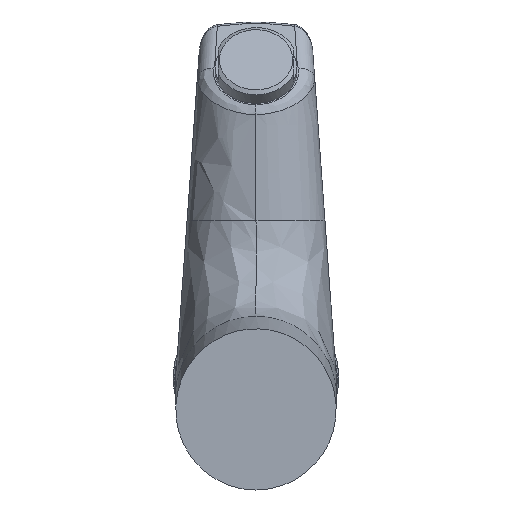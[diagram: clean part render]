
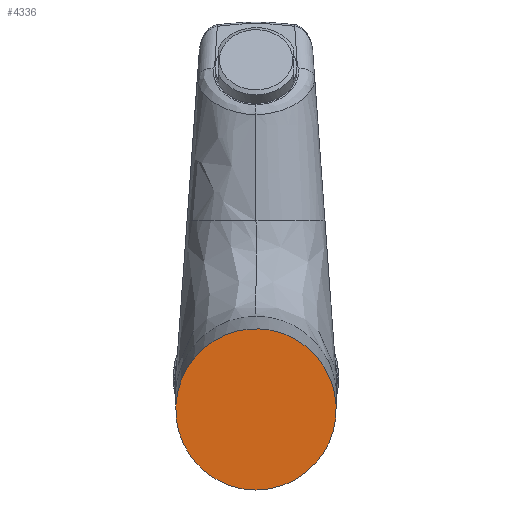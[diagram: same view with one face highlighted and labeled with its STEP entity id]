
A CAD part, front view. The second image highlights one B-rep face of the part: STEP entity #4336.
In plain terms, the highlighted planar face has unit normal (0, -1, 0).
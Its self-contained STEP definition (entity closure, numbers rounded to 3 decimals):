
#416 = DIRECTION ( 'NONE',  ( 0., 0., 1. ) ) ;
#424 = CARTESIAN_POINT ( 'NONE',  ( -47.015, 0., 23.59 ) ) ;
#1148 = CARTESIAN_POINT ( 'NONE',  ( -9.5, 0., -8.5 ) ) ;
#1227 =( BOUNDED_CURVE ( )  B_SPLINE_CURVE ( 3, ( #6000, #11473, #13653, #7138, #424, #8265, #1540 ),
 .UNSPECIFIED., .T., .T. ) 
 B_SPLINE_CURVE_WITH_KNOTS ( ( 4, 3, 4 ),
 ( 0., 3.142, 6.283 ),
 .UNSPECIFIED. ) 
 CURVE ( )  GEOMETRIC_REPRESENTATION_ITEM ( )  RATIONAL_B_SPLINE_CURVE ( ( 1., 0.333, 0.333, 1., 0.333, 0.333, 1. ) ) 
 REPRESENTATION_ITEM ( '' )  );
#1540 = CARTESIAN_POINT ( 'NONE',  ( 0., 0., -23.605 ) ) ;
#1554 = AXIS2_PLACEMENT_3D ( 'NONE', #1148, #7127, #416 ) ;
#2119 = ORIENTED_EDGE ( 'NONE', *, *, #12240, .T. ) ;
#4336 = ADVANCED_FACE ( 'NONE', ( #9971 ), #12544, .F. ) ;
#6000 = CARTESIAN_POINT ( 'NONE',  ( 0., 0., -23.605 ) ) ;
#7052 = CARTESIAN_POINT ( 'NONE',  ( 0., 0., -23.605 ) ) ;
#7127 = DIRECTION ( 'NONE',  ( 0., 1., 0. ) ) ;
#7138 = CARTESIAN_POINT ( 'NONE',  ( 0., 0., 23.59 ) ) ;
#7154 = VERTEX_POINT ( 'NONE', #7052 ) ;
#8265 = CARTESIAN_POINT ( 'NONE',  ( -47.015, 0., -23.605 ) ) ;
#9971 = FACE_OUTER_BOUND ( 'NONE', #13768, .T. ) ;
#11473 = CARTESIAN_POINT ( 'NONE',  ( 47.015, 0., -23.605 ) ) ;
#12240 = EDGE_CURVE ( 'NONE', #7154, #7154, #1227, .T. ) ;
#12544 = PLANE ( 'NONE',  #1554 ) ;
#13653 = CARTESIAN_POINT ( 'NONE',  ( 47.015, 0., 23.59 ) ) ;
#13768 = EDGE_LOOP ( 'NONE', ( #2119 ) ) ;
